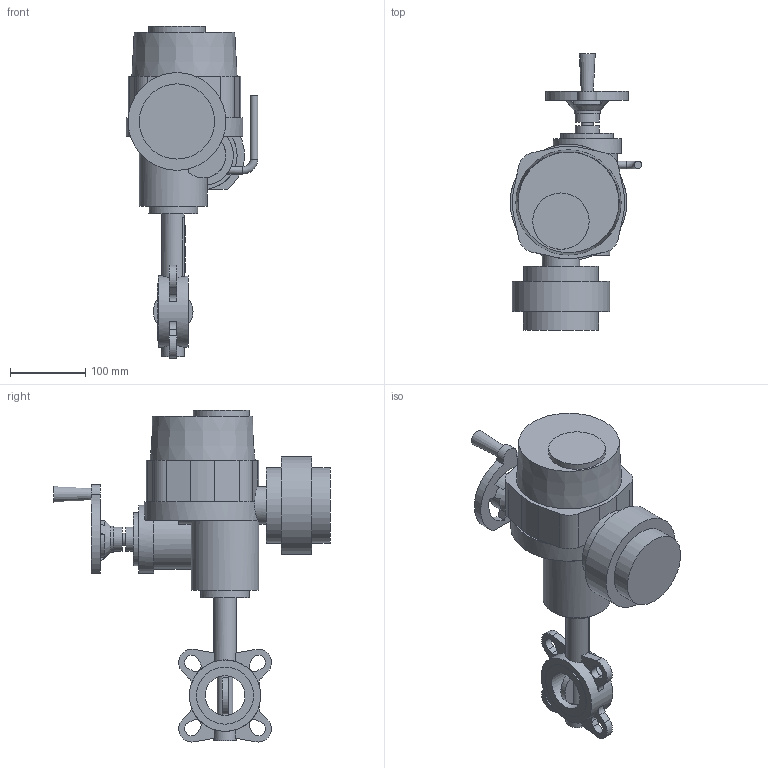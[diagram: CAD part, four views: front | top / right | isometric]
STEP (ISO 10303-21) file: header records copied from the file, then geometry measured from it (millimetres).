
FILE_DESCRIPTION(('STEP AP203'), '1');
FILE_NAME('Çàòâîð 017W.Z(ñòàëü) DN50+ÝÏ QT.A005', '', ('UNSPECIFIED'), ('UNSPECIFIED'), 'ASCON STEP Converter 1.6', 'ASCON Math Kernel', '');
FILE_SCHEMA(('CONFIG_CONTROL_DESIGN'));
Length unit declared in the file: millimetre
Bounding box: 175 x 368 x 441.69 mm (x, y, z)
Volume: 4934530 mm3; surface area: 301262.7 mm2
Topology: 1 solids, 1 shells, 695 faces, 1932 edges, 1281 vertices
Faces by surface type: cylinder 440, plane 251, cone 3, torus 1
Full cylindrical faces by diameter (mm): 6.7 x8, 8 x4, 10 x2, 16 x1, 21 x1, 30 x2, 32 x2, 35 x1, 50 x1, 52.8 x1, 65 x1, 70 x1, 75 x1, 76 x2, 90 x2, 95 x1, 100 x2, 130 x1
Entity records: 29272 total; most frequent: CARTESIAN_POINT 5110, DIRECTION 4179, ORIENTED_EDGE 3788, EDGE_CURVE 1894, AXIS2_PLACEMENT_3D 1620, VERTEX_POINT 1281, LINE 939, VECTOR 939
